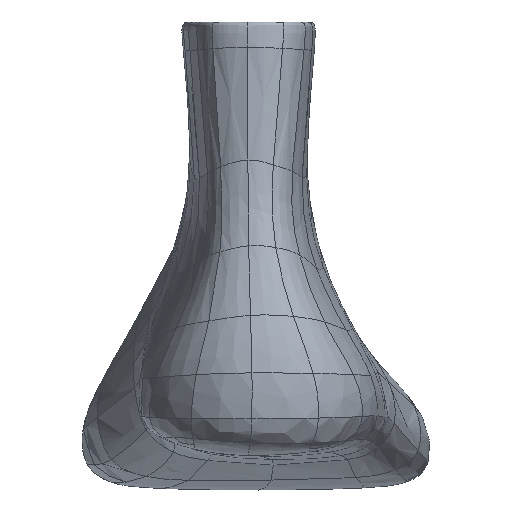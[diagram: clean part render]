
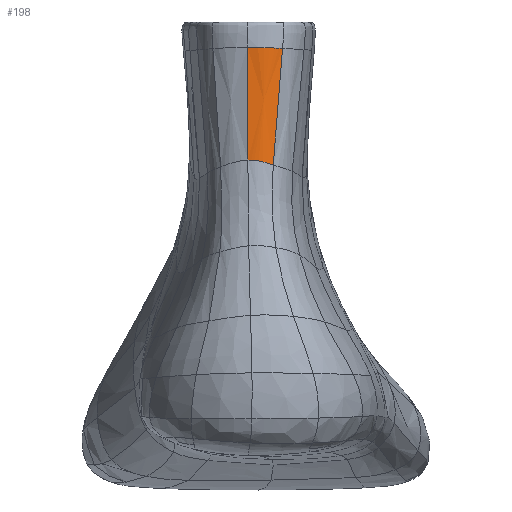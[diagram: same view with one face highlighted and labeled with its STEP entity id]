
A CAD part, left-side view. The second image highlights one B-rep face of the part: STEP entity #198.
In plain terms, the highlighted free-form (B-spline) face has degree [3, 3] with [5, 5] control points.
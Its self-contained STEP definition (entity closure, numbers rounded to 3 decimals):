
#198=ADVANCED_FACE('',(#433),#3174,.T.);
#433=FACE_OUTER_BOUND('',#668,.T.);
#668=EDGE_LOOP('',(#1481,#1482,#1483,#1484));
#1481=ORIENTED_EDGE('',*,*,#2111,.T.);
#1482=ORIENTED_EDGE('',*,*,#2113,.F.);
#1483=ORIENTED_EDGE('',*,*,#2107,.F.);
#1484=ORIENTED_EDGE('',*,*,#2106,.F.);
#2106=EDGE_CURVE('',#2885,#2882,#2602,.T.);
#2107=EDGE_CURVE('',#2882,#2887,#2603,.T.);
#2111=EDGE_CURVE('',#2885,#2889,#2607,.T.);
#2113=EDGE_CURVE('',#2887,#2889,#2609,.T.);
#2602=B_SPLINE_CURVE_WITH_KNOTS('',3,(#13897,#13898,#13899,#13900,#13901),
 .UNSPECIFIED.,.F.,.F.,(4,1,4),(0.,1.,2.),.UNSPECIFIED.);
#2603=B_SPLINE_CURVE_WITH_KNOTS('',3,(#13902,#13903,#13904,#13905,#13906),
 .UNSPECIFIED.,.F.,.F.,(4,1,4),(0.,1.,2.),.UNSPECIFIED.);
#2607=B_SPLINE_CURVE_WITH_KNOTS('',3,(#13924,#13925,#13926,#13927,#13928),
 .UNSPECIFIED.,.F.,.F.,(4,1,4),(0.,1.,2.),.UNSPECIFIED.);
#2609=B_SPLINE_CURVE_WITH_KNOTS('',3,(#13933,#13934,#13935,#13936,#13937),
 .UNSPECIFIED.,.F.,.F.,(4,1,4),(-2.,-1.,0.),.UNSPECIFIED.);
#2882=VERTEX_POINT('',#11527);
#2885=VERTEX_POINT('',#11530);
#2887=VERTEX_POINT('',#11532);
#2889=VERTEX_POINT('',#11534);
#3174=B_SPLINE_SURFACE_WITH_KNOTS('',3,3,((#9670,#9671,#9672,#9673,#9674),
(#9675,#9676,#9677,#9678,#9679),(#9680,#9681,#9682,#9683,#9684),(#9685,
#9686,#9687,#9688,#9689),(#9690,#9691,#9692,#9693,#9694)),.UNSPECIFIED.,
 .F.,.F.,.F.,(4,1,4),(4,1,4),(0.,1.,2.),(0.,1.,2.),.UNSPECIFIED.);
#9670=CARTESIAN_POINT('',(12.877,2.56,154.806));
#9671=CARTESIAN_POINT('',(12.628,0.694,154.813));
#9672=CARTESIAN_POINT('',(12.663,-2.964,154.706));
#9673=CARTESIAN_POINT('',(13.954,-6.178,154.514));
#9674=CARTESIAN_POINT('',(14.963,-7.6,154.436));
#9675=CARTESIAN_POINT('',(12.877,2.557,151.152));
#9676=CARTESIAN_POINT('',(12.631,0.745,151.163));
#9677=CARTESIAN_POINT('',(12.668,-2.791,151.002));
#9678=CARTESIAN_POINT('',(13.924,-5.896,150.715));
#9679=CARTESIAN_POINT('',(14.897,-7.278,150.598));
#9680=CARTESIAN_POINT('',(13.096,2.525,140.191));
#9681=CARTESIAN_POINT('',(12.86,0.895,140.212));
#9682=CARTESIAN_POINT('',(12.904,-2.238,139.891));
#9683=CARTESIAN_POINT('',(14.041,-4.986,139.316));
#9684=CARTESIAN_POINT('',(14.897,-6.23,139.082));
#9685=CARTESIAN_POINT('',(12.986,2.473,127.465));
#9686=CARTESIAN_POINT('',(12.765,1.029,127.503));
#9687=CARTESIAN_POINT('',(12.794,-1.69,127.083));
#9688=CARTESIAN_POINT('',(13.792,-4.083,126.3));
#9689=CARTESIAN_POINT('',(14.54,-5.2,125.975));
#9690=CARTESIAN_POINT('',(12.656,2.449,122.046));
#9691=CARTESIAN_POINT('',(12.441,1.065,122.096));
#9692=CARTESIAN_POINT('',(12.451,-1.52,121.684));
#9693=CARTESIAN_POINT('',(13.395,-3.808,120.884));
#9694=CARTESIAN_POINT('',(14.116,-4.895,120.546));
#11527=CARTESIAN_POINT('',(14.963,-7.6,154.436));
#11530=CARTESIAN_POINT('',(12.877,2.56,154.806));
#11532=CARTESIAN_POINT('',(14.116,-4.895,120.546));
#11534=CARTESIAN_POINT('',(12.656,2.449,122.046));
#13897=CARTESIAN_POINT('',(12.877,2.56,154.806));
#13898=CARTESIAN_POINT('',(12.628,0.694,154.813));
#13899=CARTESIAN_POINT('',(12.663,-2.964,154.706));
#13900=CARTESIAN_POINT('',(13.954,-6.178,154.514));
#13901=CARTESIAN_POINT('',(14.963,-7.6,154.436));
#13902=CARTESIAN_POINT('',(14.963,-7.6,154.436));
#13903=CARTESIAN_POINT('',(14.897,-7.278,150.598));
#13904=CARTESIAN_POINT('',(14.897,-6.23,139.082));
#13905=CARTESIAN_POINT('',(14.54,-5.2,125.975));
#13906=CARTESIAN_POINT('',(14.116,-4.895,120.546));
#13924=CARTESIAN_POINT('',(12.877,2.56,154.806));
#13925=CARTESIAN_POINT('',(12.877,2.557,151.152));
#13926=CARTESIAN_POINT('',(13.096,2.525,140.191));
#13927=CARTESIAN_POINT('',(12.986,2.473,127.465));
#13928=CARTESIAN_POINT('',(12.656,2.449,122.046));
#13933=CARTESIAN_POINT('',(14.116,-4.895,120.546));
#13934=CARTESIAN_POINT('',(13.395,-3.808,120.884));
#13935=CARTESIAN_POINT('',(12.451,-1.52,121.684));
#13936=CARTESIAN_POINT('',(12.441,1.065,122.096));
#13937=CARTESIAN_POINT('',(12.656,2.449,122.046));
